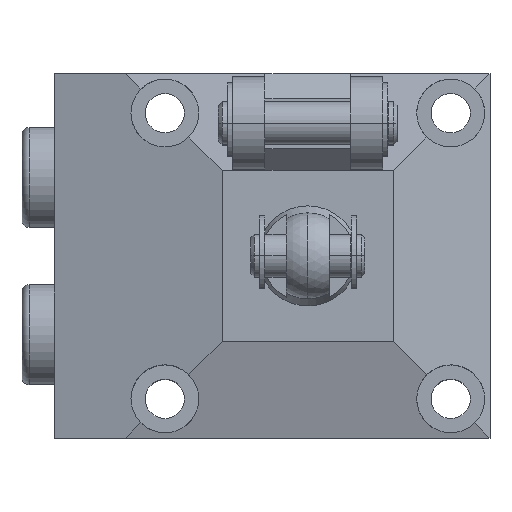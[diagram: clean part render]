
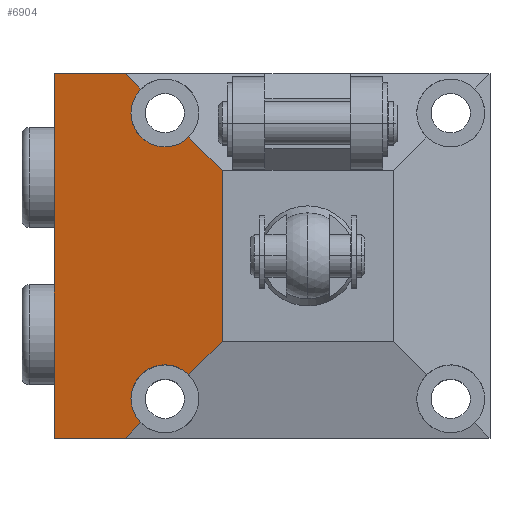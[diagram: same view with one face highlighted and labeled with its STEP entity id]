
A CAD part, top view. The second image highlights one B-rep face of the part: STEP entity #6904.
In plain terms, the highlighted planar face has unit normal (-0.259, 0, 0.966).
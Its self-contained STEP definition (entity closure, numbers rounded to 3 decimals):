
#8 = ORIENTED_EDGE ( 'NONE', *, *, #3427, .T. ) ;
#96 = CARTESIAN_POINT ( 'NONE',  ( -24.75, -20., 58.584 ) ) ;
#117 = CARTESIAN_POINT ( 'NONE',  ( -12., -25.5, 62. ) ) ;
#328 = CARTESIAN_POINT ( 'NONE',  ( -18.517, 18.517, 60.254 ) ) ;
#378 = CARTESIAN_POINT ( 'NONE',  ( -23.359, 23.359, 58.956 ) ) ;
#420 = EDGE_CURVE ( 'NONE', #4105, #5706, #3403, .T. ) ;
#427 = VERTEX_POINT ( 'NONE', #5332 ) ;
#432 =( BOUNDED_CURVE ( )  B_SPLINE_CURVE ( 3, ( #932, #4827, #2595, #6515 ),
 .UNSPECIFIED., .F., .T. ) 
 B_SPLINE_CURVE_WITH_KNOTS ( ( 4, 4 ),
 ( 0.785, 3.142 ),
 .UNSPECIFIED. ) 
 CURVE ( )  GEOMETRIC_REPRESENTATION_ITEM ( )  RATIONAL_B_SPLINE_CURVE ( ( 1., 0.588, 0.588, 1. ) ) 
 REPRESENTATION_ITEM ( '' )  );
#631 = ORIENTED_EDGE ( 'NONE', *, *, #3995, .F. ) ;
#811 = CARTESIAN_POINT ( 'NONE',  ( -35.5, 25.501, 55.703 ) ) ;
#872 = DIRECTION ( 'NONE',  ( -0.695, 0.695, -0.186 ) ) ;
#932 = CARTESIAN_POINT ( 'NONE',  ( -16.641, 16.641, 60.756 ) ) ;
#1010 = VERTEX_POINT ( 'NONE', #7044 ) ;
#1136 = VECTOR ( 'NONE', #3962, 1000. ) ;
#1234 = CARTESIAN_POINT ( 'NONE',  ( -23.359, 23.359, 58.956 ) ) ;
#1269 = LINE ( 'NONE', #2680, #3886 ) ;
#1388 = CARTESIAN_POINT ( 'NONE',  ( -25.5, 25.5, 58.383 ) ) ;
#1454 = CARTESIAN_POINT ( 'NONE',  ( -24.75, 20., 58.584 ) ) ;
#1647 = PLANE ( 'NONE',  #6695 ) ;
#1714 = CARTESIAN_POINT ( 'NONE',  ( -24.261, -22.456, 58.715 ) ) ;
#1765 =( BOUNDED_CURVE ( )  B_SPLINE_CURVE ( 3, ( #6763, #1714, #5065, #96 ),
 .UNSPECIFIED., .F., .T. ) 
 B_SPLINE_CURVE_WITH_KNOTS ( ( 4, 4 ),
 ( 2.356, 3.142 ),
 .UNSPECIFIED. ) 
 CURVE ( )  GEOMETRIC_REPRESENTATION_ITEM ( )  RATIONAL_B_SPLINE_CURVE ( ( 1., 0.949, 0.949, 1. ) ) 
 REPRESENTATION_ITEM ( '' )  );
#1853 = VERTEX_POINT ( 'NONE', #2770 ) ;
#1902 = VECTOR ( 'NONE', #872, 1000. ) ;
#1905 = VECTOR ( 'NONE', #4254, 1000. ) ;
#1964 = CARTESIAN_POINT ( 'NONE',  ( -24.75, -15.028, 58.584 ) ) ;
#2088 = LINE ( 'NONE', #3143, #1905 ) ;
#2222 = EDGE_CURVE ( 'NONE', #5592, #3019, #1765, .T. ) ;
#2280 = CARTESIAN_POINT ( 'NONE',  ( -24.75, -20., 58.584 ) ) ;
#2378 = CARTESIAN_POINT ( 'NONE',  ( -23.359, -23.359, 58.956 ) ) ;
#2471 = DIRECTION ( 'NONE',  ( 0., -1., 0. ) ) ;
#2507 = CARTESIAN_POINT ( 'NONE',  ( -24.75, -20., 58.584 ) ) ;
#2535 = CARTESIAN_POINT ( 'NONE',  ( -16.641, -16.641, 60.756 ) ) ;
#2562 = CARTESIAN_POINT ( 'NONE',  ( -24.75, 20., 58.584 ) ) ;
#2595 = CARTESIAN_POINT ( 'NONE',  ( -24.75, 15.028, 58.584 ) ) ;
#2680 = CARTESIAN_POINT ( 'NONE',  ( -25.515, -25.515, 58.379 ) ) ;
#2753 = CARTESIAN_POINT ( 'NONE',  ( -12., 12., 62. ) ) ;
#2754 = EDGE_LOOP ( 'NONE', ( #4853, #5776, #4977, #3189, #3214, #5842, #8, #3915, #631, #5474, #4052, #5687 ) ) ;
#2770 = CARTESIAN_POINT ( 'NONE',  ( -35.5, -25.5, 55.703 ) ) ;
#2776 = DIRECTION ( 'NONE',  ( -0.695, -0.695, -0.186 ) ) ;
#2805 = LINE ( 'NONE', #4302, #4459 ) ;
#2935 = VERTEX_POINT ( 'NONE', #2753 ) ;
#2998 =( BOUNDED_CURVE ( )  B_SPLINE_CURVE ( 3, ( #2507, #1964, #5876, #2535 ),
 .UNSPECIFIED., .F., .F. ) 
 B_SPLINE_CURVE_WITH_KNOTS ( ( 4, 4 ),
 ( 3.142, 5.498 ),
 .UNSPECIFIED. ) 
 CURVE ( )  GEOMETRIC_REPRESENTATION_ITEM ( )  RATIONAL_B_SPLINE_CURVE ( ( 1., 0.588, 0.588, 1. ) ) 
 REPRESENTATION_ITEM ( '' )  );
#3019 = VERTEX_POINT ( 'NONE', #2280 ) ;
#3058 = LINE ( 'NONE', #6685, #4375 ) ;
#3143 = CARTESIAN_POINT ( 'NONE',  ( -12., 25.5, 62. ) ) ;
#3189 = ORIENTED_EDGE ( 'NONE', *, *, #4690, .T. ) ;
#3214 = ORIENTED_EDGE ( 'NONE', *, *, #420, .T. ) ;
#3331 = DIRECTION ( 'NONE',  ( -0.966, 0., -0.259 ) ) ;
#3403 = LINE ( 'NONE', #328, #1902 ) ;
#3427 = EDGE_CURVE ( 'NONE', #6617, #1853, #5529, .T. ) ;
#3613 = EDGE_CURVE ( 'NONE', #2935, #1010, #4633, .T. ) ;
#3690 = CARTESIAN_POINT ( 'NONE',  ( -24.261, 22.456, 58.715 ) ) ;
#3737 = LINE ( 'NONE', #117, #1136 ) ;
#3875 = CARTESIAN_POINT ( 'NONE',  ( -12., 25.501, 62. ) ) ;
#3886 = VECTOR ( 'NONE', #6050, 1000. ) ;
#3915 = ORIENTED_EDGE ( 'NONE', *, *, #5496, .T. ) ;
#3962 = DIRECTION ( 'NONE',  ( 0.966, 0., 0.259 ) ) ;
#3995 = EDGE_CURVE ( 'NONE', #5592, #5365, #3058, .T. ) ;
#4052 = ORIENTED_EDGE ( 'NONE', *, *, #5262, .T. ) ;
#4105 = VERTEX_POINT ( 'NONE', #1234 ) ;
#4254 = DIRECTION ( 'NONE',  ( -0.966, 0., -0.259 ) ) ;
#4302 = CARTESIAN_POINT ( 'NONE',  ( -18.517, 18.517, 60.254 ) ) ;
#4310 = CARTESIAN_POINT ( 'NONE',  ( -16.641, 16.641, 60.756 ) ) ;
#4336 = CARTESIAN_POINT ( 'NONE',  ( -12., 25.501, 62. ) ) ;
#4375 = VECTOR ( 'NONE', #2776, 1000. ) ;
#4418 = EDGE_CURVE ( 'NONE', #5706, #6617, #2088, .T. ) ;
#4448 = CARTESIAN_POINT ( 'NONE',  ( -25.5, -25.5, 58.383 ) ) ;
#4459 = VECTOR ( 'NONE', #5436, 1000. ) ;
#4469 = VERTEX_POINT ( 'NONE', #4310 ) ;
#4633 = LINE ( 'NONE', #4336, #6306 ) ;
#4679 = VERTEX_POINT ( 'NONE', #1454 ) ;
#4690 = EDGE_CURVE ( 'NONE', #4679, #4105, #5608, .T. ) ;
#4781 = EDGE_CURVE ( 'NONE', #2935, #4469, #2805, .T. ) ;
#4827 = CARTESIAN_POINT ( 'NONE',  ( -20.157, 13.126, 59.814 ) ) ;
#4853 = ORIENTED_EDGE ( 'NONE', *, *, #3613, .F. ) ;
#4912 = DIRECTION ( 'NONE',  ( 0., -1., 0. ) ) ;
#4977 = ORIENTED_EDGE ( 'NONE', *, *, #5772, .T. ) ;
#5025 = FACE_OUTER_BOUND ( 'NONE', #2754, .T. ) ;
#5065 = CARTESIAN_POINT ( 'NONE',  ( -24.75, -21.277, 58.584 ) ) ;
#5108 = CARTESIAN_POINT ( 'NONE',  ( -35.5, 25.5, 55.703 ) ) ;
#5262 = EDGE_CURVE ( 'NONE', #3019, #427, #2998, .T. ) ;
#5332 = CARTESIAN_POINT ( 'NONE',  ( -16.641, -16.641, 60.756 ) ) ;
#5365 = VERTEX_POINT ( 'NONE', #4448 ) ;
#5436 = DIRECTION ( 'NONE',  ( -0.695, 0.695, -0.186 ) ) ;
#5474 = ORIENTED_EDGE ( 'NONE', *, *, #2222, .T. ) ;
#5496 = EDGE_CURVE ( 'NONE', #1853, #5365, #3737, .T. ) ;
#5529 = LINE ( 'NONE', #811, #7010 ) ;
#5592 = VERTEX_POINT ( 'NONE', #2378 ) ;
#5608 =( BOUNDED_CURVE ( )  B_SPLINE_CURVE ( 3, ( #2562, #5914, #3690, #378 ),
 .UNSPECIFIED., .F., .T. ) 
 B_SPLINE_CURVE_WITH_KNOTS ( ( 4, 4 ),
 ( 3.142, 3.927 ),
 .UNSPECIFIED. ) 
 CURVE ( )  GEOMETRIC_REPRESENTATION_ITEM ( )  RATIONAL_B_SPLINE_CURVE ( ( 1., 0.949, 0.949, 1. ) ) 
 REPRESENTATION_ITEM ( '' )  );
#5687 = ORIENTED_EDGE ( 'NONE', *, *, #6854, .F. ) ;
#5706 = VERTEX_POINT ( 'NONE', #1388 ) ;
#5772 = EDGE_CURVE ( 'NONE', #4469, #4679, #432, .T. ) ;
#5776 = ORIENTED_EDGE ( 'NONE', *, *, #4781, .T. ) ;
#5842 = ORIENTED_EDGE ( 'NONE', *, *, #4418, .T. ) ;
#5876 = CARTESIAN_POINT ( 'NONE',  ( -20.157, -13.126, 59.814 ) ) ;
#5914 = CARTESIAN_POINT ( 'NONE',  ( -24.75, 21.277, 58.584 ) ) ;
#6050 = DIRECTION ( 'NONE',  ( -0.695, -0.695, -0.186 ) ) ;
#6306 = VECTOR ( 'NONE', #4912, 1000. ) ;
#6515 = CARTESIAN_POINT ( 'NONE',  ( -24.75, 20., 58.584 ) ) ;
#6617 = VERTEX_POINT ( 'NONE', #5108 ) ;
#6685 = CARTESIAN_POINT ( 'NONE',  ( -25.515, -25.515, 58.379 ) ) ;
#6693 = DIRECTION ( 'NONE',  ( 0.259, 0., -0.966 ) ) ;
#6695 = AXIS2_PLACEMENT_3D ( 'NONE', #3875, #6693, #3331 ) ;
#6763 = CARTESIAN_POINT ( 'NONE',  ( -23.359, -23.359, 58.956 ) ) ;
#6854 = EDGE_CURVE ( 'NONE', #1010, #427, #1269, .T. ) ;
#6904 = ADVANCED_FACE ( 'NONE', ( #5025 ), #1647, .F. ) ;
#7010 = VECTOR ( 'NONE', #2471, 1000. ) ;
#7044 = CARTESIAN_POINT ( 'NONE',  ( -12., -12., 62. ) ) ;
